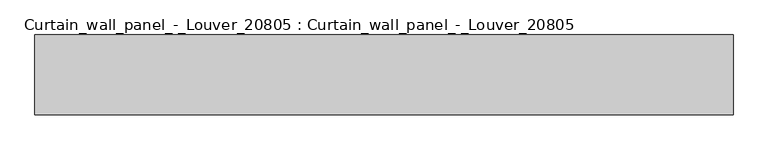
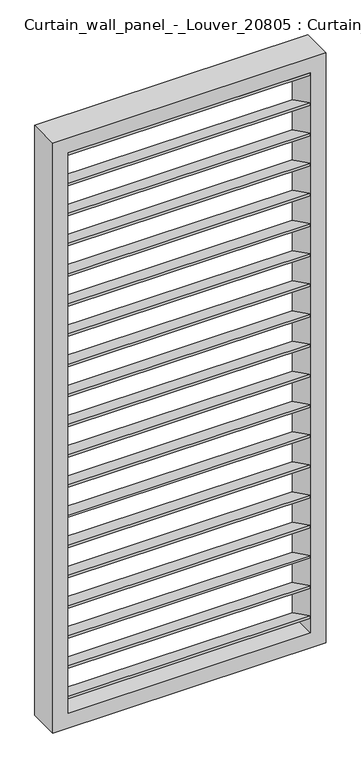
"""IFC4 building model written with IfcOpenShell, lengths in millimetres: plate geometry, Curtain_wall_panel_-_Louver_20805 : Curtain_wall_panel_-_Louver_20805."""

from ifc_helpers import new_model, si_unit, frame, origin, place, context, project, spatial, polyline, outline, extrude, source, transform, mapped, element, save


def curtain_wall_panel_louver_20805_curtain_wall_panel_louver_6c5e9791(model_context):
    return source(origin(), model_context, "Body", "SweptSolid", [
        extrude(outline(polyline([(-200.0, 3678.5908966), (-200.0, 3695.3408295), (0.0, 3595.9558314), (0.0, 3579.2058986), (-200.0, 3678.5908966)])), frame((-776.8071292, 0.0, 0.0), z_axis=(1.0, 0.0, 0.0), x_axis=(0.0, 1.0, 0.0)), (0.0, 0.0, 1.0), 1553.6142585),
        extrude(outline(polyline([(-200.0, 3473.9317261), (-200.0, 3490.681659), (0.0, 3391.2966609), (0.0, 3374.546728), (-200.0, 3473.9317261)])), frame((-776.8071292, 0.0, 0.0), z_axis=(1.0, 0.0, 0.0), x_axis=(0.0, 1.0, 0.0)), (0.0, 0.0, 1.0), 1553.6142585),
        extrude(outline(polyline([(-200.0, 3269.2725556), (-200.0, 3286.0224885), (0.0, 3186.6374904), (0.0, 3169.8875575), (-200.0, 3269.2725556)])), frame((-776.8071292, 0.0, 0.0), z_axis=(1.0, 0.0, 0.0), x_axis=(0.0, 1.0, 0.0)), (0.0, 0.0, 1.0), 1553.6142585),
        extrude(outline(polyline([(-200.0, 3064.6133851), (-200.0, 3081.363318), (0.0, 2981.9783199), (0.0, 2965.228387), (-200.0, 3064.6133851)])), frame((-776.8071292, 0.0, 0.0), z_axis=(1.0, 0.0, 0.0), x_axis=(0.0, 1.0, 0.0)), (0.0, 0.0, 1.0), 1553.6142585),
        extrude(outline(polyline([(-200.0, 2859.9542146), (-200.0, 2876.7041475), (0.0, 2777.3191494), (0.0, 2760.5692165), (-200.0, 2859.9542146)])), frame((-776.8071292, 0.0, 0.0), z_axis=(1.0, 0.0, 0.0), x_axis=(0.0, 1.0, 0.0)), (0.0, 0.0, 1.0), 1553.6142585),
        extrude(outline(polyline([(-200.0, 2655.2950441), (-200.0, 2672.044977), (0.0, 2572.6599789), (0.0, 2555.910046), (-200.0, 2655.2950441)])), frame((-776.8071292, 0.0, 0.0), z_axis=(1.0, 0.0, 0.0), x_axis=(0.0, 1.0, 0.0)), (0.0, 0.0, 1.0), 1553.6142585),
        extrude(outline(polyline([(-200.0, 2450.6358736), (-200.0, 2467.3858065), (0.0, 2368.0008084), (0.0, 2351.2508755), (-200.0, 2450.6358736)])), frame((-776.8071292, 0.0, 0.0), z_axis=(1.0, 0.0, 0.0), x_axis=(0.0, 1.0, 0.0)), (0.0, 0.0, 1.0), 1553.6142585),
        extrude(outline(polyline([(-200.0, 2245.9767031), (-200.0, 2262.726636), (0.0, 2163.3416379), (0.0, 2146.591705), (-200.0, 2245.9767031)])), frame((-776.8071292, 0.0, 0.0), z_axis=(1.0, 0.0, 0.0), x_axis=(0.0, 1.0, 0.0)), (0.0, 0.0, 1.0), 1553.6142585),
        extrude(outline(polyline([(-200.0, 2041.3175326), (-200.0, 2058.0674655), (0.0, 1958.6824674), (0.0, 1941.9325345), (-200.0, 2041.3175326)])), frame((-776.8071292, 0.0, 0.0), z_axis=(1.0, 0.0, 0.0), x_axis=(0.0, 1.0, 0.0)), (0.0, 0.0, 1.0), 1553.6142585),
        extrude(outline(polyline([(-200.0, 1836.6583621), (-200.0, 1853.408295), (0.0, 1754.0232969), (0.0, 1737.273364), (-200.0, 1836.6583621)])), frame((-776.8071292, 0.0, 0.0), z_axis=(1.0, 0.0, 0.0), x_axis=(0.0, 1.0, 0.0)), (0.0, 0.0, 1.0), 1553.6142585),
        extrude(outline(polyline([(-200.0, 1631.9991916), (-200.0, 1648.7491245), (0.0, 1549.3641264), (0.0, 1532.6141935), (-200.0, 1631.9991916)])), frame((-776.8071292, 0.0, 0.0), z_axis=(1.0, 0.0, 0.0), x_axis=(0.0, 1.0, 0.0)), (0.0, 0.0, 1.0), 1553.6142585),
        extrude(outline(polyline([(-200.0, 1427.3400211), (-200.0, 1444.089954), (0.0, 1344.7049559), (0.0, 1327.955023), (-200.0, 1427.3400211)])), frame((-776.8071292, 0.0, 0.0), z_axis=(1.0, 0.0, 0.0), x_axis=(0.0, 1.0, 0.0)), (0.0, 0.0, 1.0), 1553.6142585),
        extrude(outline(polyline([(-200.0, 1222.6808506), (-200.0, 1239.4307835), (0.0, 1140.0457854), (0.0, 1123.2958525), (-200.0, 1222.6808506)])), frame((-776.8071292, 0.0, 0.0), z_axis=(1.0, 0.0, 0.0), x_axis=(0.0, 1.0, 0.0)), (0.0, 0.0, 1.0), 1553.6142585),
        extrude(outline(polyline([(-200.0, 1018.0216801), (-200.0, 1034.771613), (0.0, 935.3866149), (0.0, 918.636682), (-200.0, 1018.0216801)])), frame((-776.8071292, 0.0, 0.0), z_axis=(1.0, 0.0, 0.0), x_axis=(0.0, 1.0, 0.0)), (0.0, 0.0, 1.0), 1553.6142585),
        extrude(outline(polyline([(-200.0, 813.3625096), (-200.0, 830.1124425), (0.0, 730.7274444), (0.0, 713.9775115), (-200.0, 813.3625096)])), frame((-776.8071292, 0.0, 0.0), z_axis=(1.0, 0.0, 0.0), x_axis=(0.0, 1.0, 0.0)), (0.0, 0.0, 1.0), 1553.6142585),
        extrude(outline(polyline([(-200.0, 608.7033391), (-200.0, 625.453272), (0.0, 526.0682739), (0.0, 509.318341), (-200.0, 608.7033391)])), frame((-776.8071292, 0.0, 0.0), z_axis=(1.0, 0.0, 0.0), x_axis=(0.0, 1.0, 0.0)), (0.0, 0.0, 1.0), 1553.6142585),
        extrude(outline(polyline([(-200.0, 404.0441686), (-200.0, 420.7941014), (0.0, 321.4091034), (0.0, 304.6591705), (-200.0, 404.0441686)])), frame((-776.8071292, 0.0, 0.0), z_axis=(1.0, 0.0, 0.0), x_axis=(0.0, 1.0, 0.0)), (0.0, 0.0, 1.0), 1553.6142585),
        extrude(outline(polyline([(-200.0, 3883.2500672), (-200.0, 3900.0), (0.0, 3800.6150019), (0.0, 3783.8650691), (-200.0, 3883.2500672)])), frame((-776.8071292, 0.0, 0.0), z_axis=(1.0, 0.0, 0.0), x_axis=(0.0, 1.0, 0.0)), (0.0, 0.0, 1.0), 1553.6142585),
        extrude(outline(polyline([(-200.0, 199.3849981), (-200.0, 216.1349309), (0.0, 116.7499328), (0.0, 100.0), (-200.0, 199.3849981)])), frame((-776.8071292, 0.0, 0.0), z_axis=(1.0, 0.0, 0.0), x_axis=(0.0, 1.0, 0.0)), (0.0, 0.0, 1.0), 1553.6142585),
        extrude(outline(polyline([(4000.0, -876.8071292), (0.0, -876.8071292), (0.0, 876.8071292), (4000.0, 876.8071292), (4000.0, -876.8071292)]), holes=[polyline([(3900.0, -776.8071292), (3900.0, 776.8071292), (100.0, 776.8071292), (100.0, -776.8071292), (3900.0, -776.8071292)])]), frame((0.0, -200.0, 0.0), z_axis=(0.0, 1.0, 0.0), x_axis=(0.0, 0.0, 1.0)), (0.0, 0.0, 1.0), 200.0),
    ])


if __name__ == "__main__":
    model = new_model("IFC4")
    model_context = context("Model", 3, world=origin())
    ifc_project = project(units=[si_unit("LENGTHUNIT", "METRE", prefix="MILLI")], contexts=[model_context])
    site = spatial("IfcSite", under=ifc_project)
    building = spatial("IfcBuilding", under=site)
    placement = place(None, origin())
    curtain_wall_panel_louver_20805_curtain_wall_panel_louver_shape = curtain_wall_panel_louver_20805_curtain_wall_panel_louver_6c5e9791(model_context)
    element("IfcPlate", 1, ObjectType="Curtain_wall_panel_-_Louver_20805 : Curtain_wall_panel_-_Louver_20805", at=placement, inside=building, context=model_context, shape_type="MappedRepresentation", body=[
        mapped(curtain_wall_panel_louver_20805_curtain_wall_panel_louver_shape, transform((0.0, 0.0, 0.0), x_axis=(1.0, 0.0, 0.0), y_axis=(0.0, 1.0, 0.0), z_axis=(0.0, 0.0, 1.0))),
    ])
    save(model, "model.ifc")
